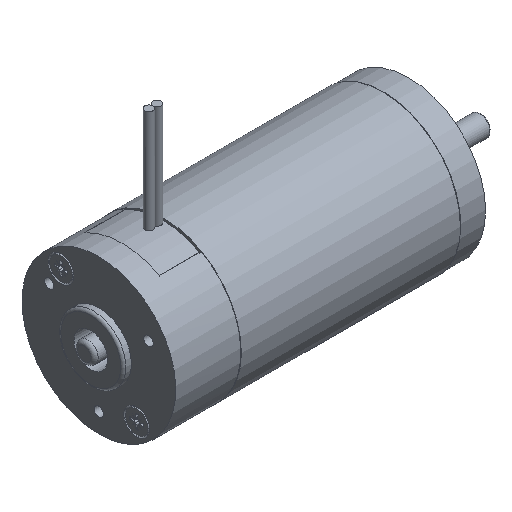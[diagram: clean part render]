
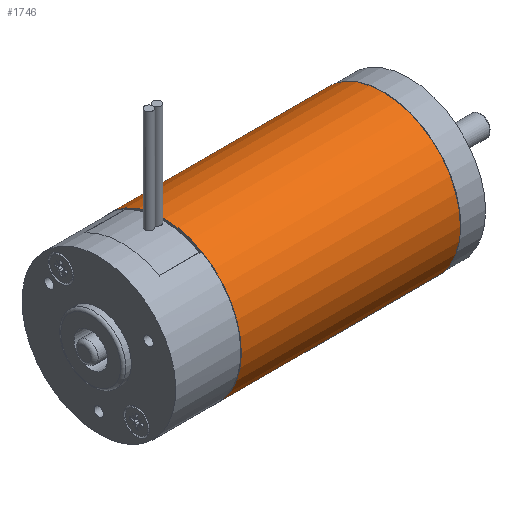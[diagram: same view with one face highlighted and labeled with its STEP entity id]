
A CAD part, isometric view. The second image highlights one B-rep face of the part: STEP entity #1746.
In plain terms, the highlighted cylindrical face has radius 15 mm (diameter 30 mm), a full revolution.
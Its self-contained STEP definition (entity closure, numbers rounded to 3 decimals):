
#1719=CARTESIAN_POINT('',(0.0,0.0,0.0));
#1720=DIRECTION('',(0.0,0.0,1.0));
#1721=DIRECTION('',(-1.0,0.0,0.0));
#1722=AXIS2_PLACEMENT_3D('',#1719,#1720,#1721);
#1723=CYLINDRICAL_SURFACE('',#1722,15.0);
#1724=CARTESIAN_POINT('',(15.0,0.,42.5));
#1725=VERTEX_POINT('',#1724);
#1726=CARTESIAN_POINT('',(0.0,0.0,42.5));
#1727=DIRECTION('',(0.0,0.0,-1.0));
#1728=DIRECTION('',(-1.0,0.0,0.0));
#1729=AXIS2_PLACEMENT_3D('',#1726,#1727,#1728);
#1730=CIRCLE('',#1729,15.0);
#1731=EDGE_CURVE('',#1725,#1725,#1730,.T.);
#1732=ORIENTED_EDGE('',*,*,#1731,.T.);
#1733=EDGE_LOOP('',(#1732));
#1734=FACE_OUTER_BOUND('',#1733,.T.);
#1735=CARTESIAN_POINT('',(15.0,0.,0.0));
#1736=VERTEX_POINT('',#1735);
#1737=CARTESIAN_POINT('',(0.0,0.0,0.0));
#1738=DIRECTION('',(0.0,0.0,-1.0));
#1739=DIRECTION('',(-1.0,0.0,0.0));
#1740=AXIS2_PLACEMENT_3D('',#1737,#1738,#1739);
#1741=CIRCLE('',#1740,15.0);
#1742=EDGE_CURVE('',#1736,#1736,#1741,.T.);
#1743=ORIENTED_EDGE('',*,*,#1742,.F.);
#1744=EDGE_LOOP('',(#1743));
#1745=FACE_BOUND('',#1744,.T.);
#1746=ADVANCED_FACE('',(#1734,#1745),#1723,.T.);
